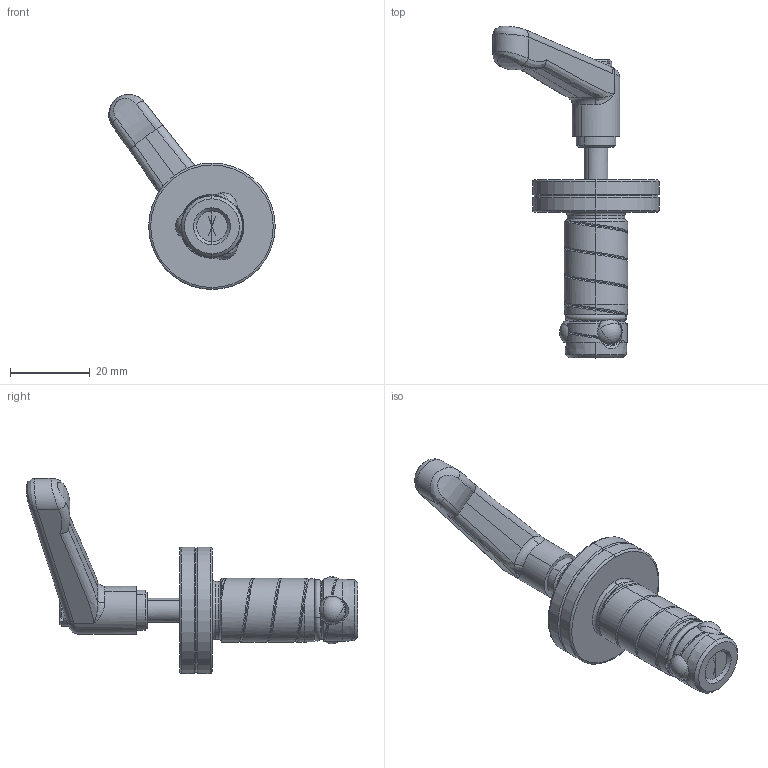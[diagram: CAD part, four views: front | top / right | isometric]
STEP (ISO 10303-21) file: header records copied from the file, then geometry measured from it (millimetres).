
FILE_DESCRIPTION (( 'STEP AP203' ), '1' );
FILE_NAME ('QSB-16020.STEP', '2021-08-23T08:58:28', ( 'set' ), ( '' ), 'SwSTEP 2.0', 'SolidWorks 2018', '' );
FILE_SCHEMA (( 'CONFIG_CONTROL_DESIGN' ));
Length unit declared in the file: millimetre
Products named in the file (1): QSB-16020
Bounding box: 41.78 x 83.24 x 48.95 mm (x, y, z)
Volume: 19116.3 mm3; surface area: 6762.8 mm2
Topology: 1 solids, 1 shells, 162 faces, 429 edges, 265 vertices
Faces by surface type: cylinder 51, cone 45, bspline 20, plane 18, torus 16, sphere 12
Entity records: 14795 total; most frequent: CARTESIAN_POINT 11090, ORIENTED_EDGE 832, DIRECTION 688, EDGE_CURVE 416, AXIS2_PLACEMENT_3D 306, VERTEX_POINT 262, EDGE_LOOP 168, B_SPLINE_CURVE_WITH_KNOTS 165
